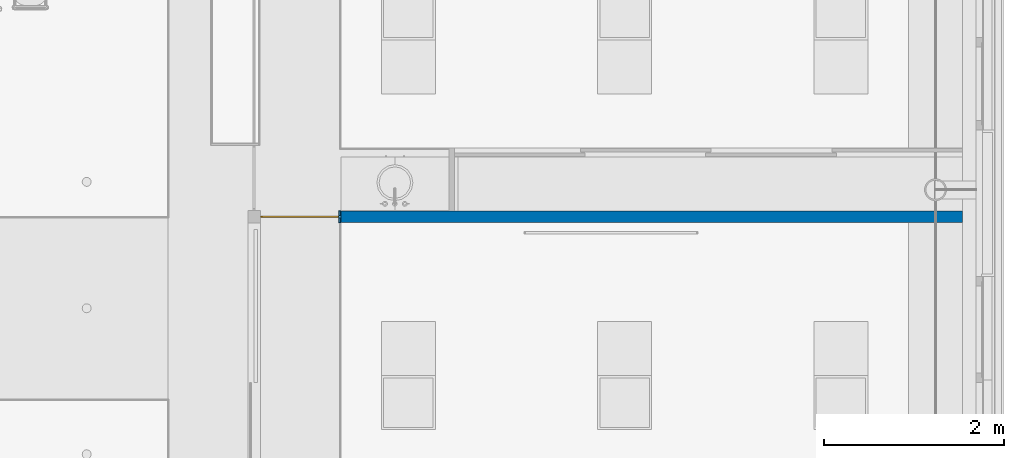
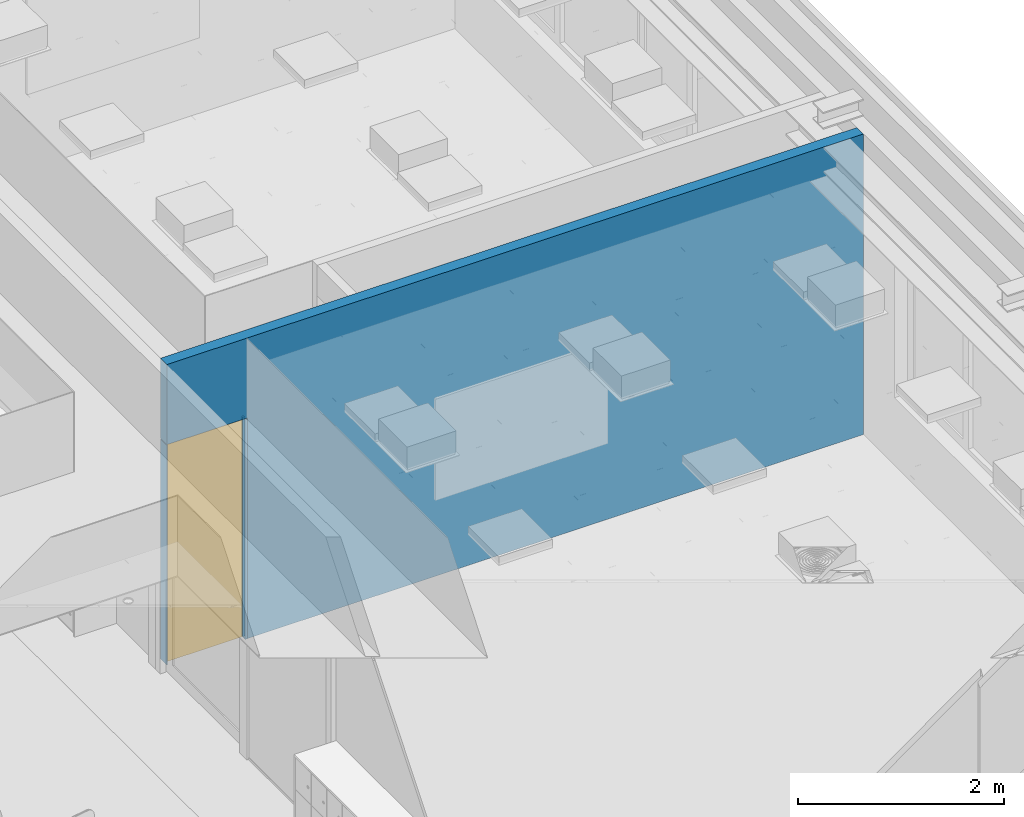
# One storey, part 32 of 260: 2 building element parts, 1 wall, 1 window, 2 openings, 1 element without a shape of its own.
"""IFC2X3 building model written with IfcOpenShell, lengths in millimetres."""

from ifc_helpers import new_model, entity, si_unit, converted_unit, derived_unit, money_unit, direction, frame, origin_with_axes, place, context, subcontext, project, spatial, open_shell, faceted_brep, surface_model, source, transform, mapped, material, type_object, type_shapes, element, fill, aggregate, save


model = new_model("IFC2X3")

# Units and contexts
model_context = context("Model", 3, precision=0.01, world=origin_with_axes(), true_north=direction((0.0, 1.0)))
plan_context = context("Plan", 3, precision=0.01, world=origin_with_axes(), true_north=direction((0.0, 1.0)))
body_context = subcontext(model_context, "Body", "Model", "MODEL_VIEW")
ifc_project = project(units=[si_unit("LENGTHUNIT", "METRE", prefix="MILLI"), si_unit("AREAUNIT", "SQUARE_METRE"), si_unit("VOLUMEUNIT", "CUBIC_METRE"), converted_unit("PLANEANGLEUNIT", "DEGREE", entity("IfcPlaneAngleMeasure", 0.0174532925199), si_unit("PLANEANGLEUNIT", "RADIAN"), dimensions=[0, 0, 0, 0, 0, 0, 0]), money_unit("EUR"), converted_unit("TIMEUNIT", "Year", entity("IfcTimeMeasure", 31556926.0), si_unit("TIMEUNIT", "SECOND"), dimensions=[0, 0, 1, 0, 0, 0, 0]), si_unit("MASSUNIT", "GRAM", prefix="KILO"), si_unit("THERMODYNAMICTEMPERATUREUNIT", "DEGREE_CELSIUS"), si_unit("LUMINOUSINTENSITYUNIT", "LUMEN"), si_unit("ENERGYUNIT", "JOULE", prefix="MEGA"), derived_unit("THERMALCONDUCTANCEUNIT", [(si_unit("POWERUNIT", "WATT"), 1), (si_unit("LENGTHUNIT", "METRE"), -1), (si_unit("THERMODYNAMICTEMPERATUREUNIT", "KELVIN"), -1)]), derived_unit("SPECIFICHEATCAPACITYUNIT", [(si_unit("ENERGYUNIT", "JOULE"), 1), (si_unit("MASSUNIT", "GRAM", prefix="KILO"), -1), (si_unit("THERMODYNAMICTEMPERATUREUNIT", "KELVIN"), -1)]), derived_unit("MASSDENSITYUNIT", [(si_unit("MASSUNIT", "GRAM", prefix="KILO"), 1), (si_unit("VOLUMEUNIT", "CUBIC_METRE"), -1)])], contexts=[model_context, plan_context])

# Site, building, storey
site_placement = place(None, origin_with_axes())
site = spatial("IfcSite", under=ifc_project, at=site_placement, Name="Site", CompositionType="ELEMENT")
building_placement = place(site_placement, origin_with_axes())
building = spatial("IfcBuilding", under=site, at=building_placement, Name="Naam gebouw", CompositionType="ELEMENT")
storey_placement = place(building_placement, frame((0.0, 0.0, 3960.0), z_axis=(0.0, 0.0, 1.0), x_axis=(1.0, 0.0, 0.0)))
storey = spatial("IfcBuildingStorey", under=building, at=storey_placement, Name="verdieping", CompositionType="ELEMENT", Elevation=3960.0)

# Wall, openings, windows, building element parts
ifc_material_1 = material(Name="ALG - LICHTE SCHEIDINGSWAND")
wall_type = type_object("IfcWallType", Name="ALG LSW 125 125", PredefinedType="NOTDEFINED")
wall_placement = place(storey_placement, frame((55875.0, 27975.0, 0.0), z_axis=(0.0, 0.0, 1.0), x_axis=(-1.0, 0.0, 0.0)))
wall = element("IfcWall", 1, at=wall_placement, inside=storey, type_object=wall_type, material=ifc_material_1, Name="22_GF 125 ECO DGS/2.75.2A", context=body_context, shape_type="Brep", body=[
    faceted_brep([(6900.0, -62.5, 0.0), (6900.0, 62.5, 0.0), (6900.0, 62.5, 2600.0), (6900.0, -62.5, 2600.0), (-3.02161211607e-05, 62.5, 0.0), (-3.02161211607e-05, -62.5, 0.0), (6900.0, 62.5, 2612.0), (-3.02161282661e-05, 62.5, 3560.00002846), (7800.0, 62.5, 3560.00000068), (7800.0, 62.5, 2612.0), (6900.0, -62.5, 2612.0), (7800.0, -62.5, 2612.0), (7800.0, -62.5, 3560.00000068), (-3.02161282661e-05, -62.5, 3560.00002846)], [[[0, 1, 2, 3]], [[4, 1, 0, 5]], [[6, 2, 1, 4, 7, 8, 9]], [[3, 2, 6, 10]], [[11, 12, 13, 5, 0, 3, 10]], [[4, 5, 13, 7]], [[8, 7, 13, 12]], [[11, 9, 8, 12]], [[11, 10, 6, 9]]]),
    faceted_brep([(7800.0, 62.5, 2600.0), (7793.0, 62.5, 2600.0), (7793.0, -62.5, 2600.0), (7800.0, -62.5, 2600.0), (7800.0, 62.5, 0.0), (7793.0, 62.5, 0.0), (7793.0, -62.5, 0.0), (7800.0, -62.5, 0.0)], [[[0, 1, 2, 3]], [[4, 5, 1, 0]], [[2, 1, 5, 6]], [[2, 6, 7, 3]], [[0, 3, 7, 4]], [[6, 5, 4, 7]]]),
])
opening_1_placement = place(wall_placement, frame((7346.5, 0.0, 0.0), z_axis=(0.0, 0.0, 1.0), x_axis=(1.0, 0.0, 0.0)))
opening_1 = element("IfcOpeningElement", 2, at=opening_1_placement, cuts=wall, Name="32_10.02", context=body_context, shape_type="Brep", body=[
    faceted_brep([(-446.5, 187.5, 2600.0), (-446.5, 187.5, 0.0), (-446.5, -10.0, 0.0), (-446.5, -10.0, 2600.0), (446.5, 187.5, 2600.0), (446.5, 187.5, 0.0), (446.5, -10.0, 0.0), (446.5, -10.0, 2600.0)], [[[0, 1, 2, 3]], [[0, 4, 5, 1]], [[1, 5, 6, 2]], [[3, 2, 6, 7]], [[4, 0, 3, 7]], [[5, 4, 7, 6]]]),
    faceted_brep([(-446.5, -187.5, 0.0), (-446.5, -187.5, 2600.0), (-446.5, -10.0, 2600.0), (-446.5, -10.0, 0.0), (446.5, -187.5, 0.0), (446.5, -187.5, 2600.0), (446.5, -10.0, 2600.0), (446.5, -10.0, 0.0)], [[[0, 1, 2, 3]], [[0, 4, 5, 1]], [[1, 5, 6, 2]], [[3, 2, 6, 7]], [[4, 0, 3, 7]], [[5, 4, 7, 6]]]),
])
opening_2_placement = place(wall_placement, frame((6912.5, 0.0, 0.0), z_axis=(0.0, 0.0, 1.0), x_axis=(1.0, 0.0, 0.0)))
opening_2 = element("IfcOpeningElement", 3, at=opening_2_placement, cuts=wall, Name="31_-", context=body_context, shape_type="Brep", body=[
    faceted_brep([(12.5, 187.5, 0.0), (12.5, 187.5, 2600.0), (12.5, 12.5, 2600.0), (12.5, 12.5, 0.0), (-12.5, 187.5, 0.0), (-12.5, 187.5, 2600.0), (-12.5, 12.5, 2600.0), (-12.5, 12.5, 0.0)], [[[0, 1, 2, 3]], [[0, 4, 5, 1]], [[1, 5, 6, 2]], [[3, 2, 6, 7]], [[4, 0, 3, 7]], [[5, 4, 7, 6]]]),
    faceted_brep([(12.5, -162.5, 2600.0), (12.5, -162.5, 0.0), (12.5, 12.5, 0.0), (12.5, 12.5, 2600.0), (-12.5, -162.5, 2600.0), (-12.5, -162.5, 0.0), (-12.5, 12.5, 0.0), (-12.5, 12.5, 2600.0)], [[[0, 1, 2, 3]], [[0, 4, 5, 1]], [[1, 5, 6, 2]], [[3, 2, 6, 7]], [[4, 0, 3, 7]], [[5, 4, 7, 6]]]),
])
window_style_1 = type_object("IfcWindowStyle", Name="R1 25", ConstructionType="NOTDEFINED", OperationType="SINGLE_PANEL", ParameterTakesPrecedence=False, Sizeable=False)
shared_shape_1 = source(origin_with_axes(), body_context, "Body", "SurfaceModel", [
    faceted_brep([(-426.5, -20.0, 2580.0), (-426.5, 0.0, 2580.0), (-446.5, 0.0, 2580.0), (-446.5, -20.0, 2580.0), (-426.5, -20.0, 20.0), (-426.5, 0.0, 20.0), (-446.5, 0.0, 20.0), (-446.5, -20.0, 20.0)], [[[0, 1, 2, 3]], [[4, 5, 1, 0]], [[1, 5, 6, 2]], [[3, 2, 6, 7]], [[0, 3, 7, 4]], [[7, 6, 5, 4]]]),
    faceted_brep([(426.5, -20.0, 20.0), (426.5, 0.0, 20.0), (446.5, 0.0, 20.0), (446.5, -20.0, 20.0), (426.5, -20.0, 2580.0), (426.5, 0.0, 2580.0), (446.5, 0.0, 2580.0), (446.5, -20.0, 2580.0)], [[[0, 1, 2, 3]], [[4, 5, 1, 0]], [[1, 5, 6, 2]], [[3, 2, 6, 7]], [[0, 3, 7, 4]], [[7, 6, 5, 4]]]),
    faceted_brep([(-426.5, -20.0, 20.0), (-426.5, 0.0, 20.0), (-446.5, 0.0, 20.0), (-446.5, -20.0, 20.0), (426.5, -20.0, 20.0), (426.5, 0.0, 20.0), (446.5, 0.0, 20.0), (446.5, 0.0, 0.0), (-446.5, 0.0, 0.0), (-446.5, -20.0, 0.0), (446.5, -20.0, 0.0), (446.5, -20.0, 20.0)], [[[0, 1, 2, 3]], [[4, 5, 1, 0]], [[1, 5, 6, 7, 8, 2]], [[3, 2, 8, 9]], [[0, 3, 9, 10, 11, 4]], [[11, 6, 5, 4]], [[10, 7, 6, 11]], [[9, 8, 7, 10]]]),
    faceted_brep([(426.5, -20.0, 2580.0), (426.5, 0.0, 2580.0), (446.5, 0.0, 2580.0), (446.5, -20.0, 2580.0), (-426.5, -20.0, 2580.0), (-426.5, 0.0, 2580.0), (-446.5, 0.0, 2580.0), (-446.5, 0.0, 2600.0), (446.5, 0.0, 2600.0), (446.5, -20.0, 2600.0), (-446.5, -20.0, 2600.0), (-446.5, -20.0, 2580.0)], [[[0, 1, 2, 3]], [[4, 5, 1, 0]], [[1, 5, 6, 7, 8, 2]], [[3, 2, 8, 9]], [[0, 3, 9, 10, 11, 4]], [[11, 6, 5, 4]], [[10, 7, 6, 11]], [[9, 8, 7, 10]]]),
    surface_model("IfcShellBasedSurfaceModel", [(-426.5, -20.0, 20.0), (426.5, -20.0, 20.0), (426.5, -20.0, 2580.0), (-426.5, -20.0, 2580.0)], [open_shell([[[0, 1, 2, 3]]])]),
    surface_model("IfcShellBasedSurfaceModel", [(-426.5, 0.0, 20.0), (-426.5, 0.0, 2580.0), (426.5, 0.0, 2580.0), (426.5, 0.0, 20.0)], [open_shell([[[0, 1, 2, 3]]])]),
])
type_shapes(window_style_1, [shared_shape_1])
window_1_placement = place(opening_1_placement, frame((446.5, 0.0, 0.0), z_axis=(0.0, 0.0, 1.0), x_axis=(-1.0, 0.0, 0.0)))
window_1 = element("IfcWindow", 4, at=window_1_placement, inside=storey, type_object=window_style_1, Name="32_10.02", ObjectType="WINDOW", OverallHeight=2600.0, OverallWidth=893.0, context=body_context, shape_type="MappedRepresentation", body=[
    mapped(shared_shape_1, transform((446.5, 10.0, 0.0))),
])
fill(opening_1, window_1)
window_style_2 = type_object("IfcWindowStyle", Name="32 glaslatten 125mm wand", ConstructionType="NOTDEFINED", OperationType="NOTDEFINED", ParameterTakesPrecedence=False, Sizeable=False)
window_2_placement = place(opening_2_placement, frame((-12.5, 0.0, 0.0), z_axis=(0.0, 0.0, 1.0), x_axis=(1.0, 0.0, 0.0)))
window_2 = element("IfcWindow", 5, at=window_2_placement, inside=storey, type_object=window_style_2, Name="31_-", ObjectType="WINDOW", OverallHeight=2600.0, OverallWidth=25.0)
fill(opening_2, window_2)
ifc_material_2 = material(Name="32 Hout binnenkozijn")
shared_shape_2 = source(origin_with_axes(), body_context, "Body", "Brep", [
    faceted_brep([(-12.5, -77.0, 2600.0), (-12.5, -77.0, 0.0), (12.5, -77.0, 0.0), (12.5, -77.0, 2600.0), (-12.5, -25.0, 2600.0), (-12.5, -25.0, 0.0), (12.5, -25.0, 0.0), (12.5, -25.0, 2600.0)], [[[0, 1, 2, 3]], [[4, 5, 1, 0]], [[1, 5, 6, 2]], [[3, 2, 6, 7]], [[0, 3, 7, 4]], [[7, 6, 5, 4]]]),
    faceted_brep([(-12.5, 0.0, 2600.0), (-12.5, 0.0, 0.0), (12.5, 0.0, 0.0), (12.5, 0.0, 2600.0), (-12.5, 52.0, 2600.0), (-12.5, 52.0, 0.0), (12.5, 52.0, 0.0), (12.5, 52.0, 2600.0)], [[[0, 1, 2, 3]], [[4, 5, 1, 0]], [[1, 5, 6, 2]], [[3, 2, 6, 7]], [[0, 3, 7, 4]], [[7, 6, 5, 4]]]),
])
building_element_part_1_placement = place(window_2_placement, origin_with_axes())
building_element_part_1 = element("IfcBuildingElementPart", 6, at=building_element_part_1_placement, material=ifc_material_2, Name="32 Hout binnenkozijn", context=body_context, shape_type="MappedRepresentation", body=[
    mapped(shared_shape_2, transform((12.5, 12.5, 0.0))),
])
ifc_material_3 = material(Name="Membraan - rubber")
shared_shape_3 = source(origin_with_axes(), body_context, "Body", "Brep", [
    faceted_brep([(-12.5, -25.0, 2600.0), (-12.5, -25.0, 0.0), (12.5, -25.0, 0.0), (12.5, -25.0, 2600.0), (-12.5, 0.0, 2600.0), (-12.5, 0.0, 0.0), (12.5, 0.0, 0.0), (12.5, 0.0, 2600.0)], [[[0, 1, 2, 3]], [[4, 5, 1, 0]], [[1, 5, 6, 2]], [[3, 2, 6, 7]], [[0, 3, 7, 4]], [[7, 6, 5, 4]]]),
])
building_element_part_2_placement = place(window_2_placement, origin_with_axes())
building_element_part_2 = element("IfcBuildingElementPart", 7, at=building_element_part_2_placement, material=ifc_material_3, Name="Membraan - rubber", context=body_context, shape_type="MappedRepresentation", body=[
    mapped(shared_shape_3, transform((12.5, 12.5, 0.0))),
])
aggregate(window_2, [building_element_part_1, building_element_part_2])

save(model, "model.ifc")
